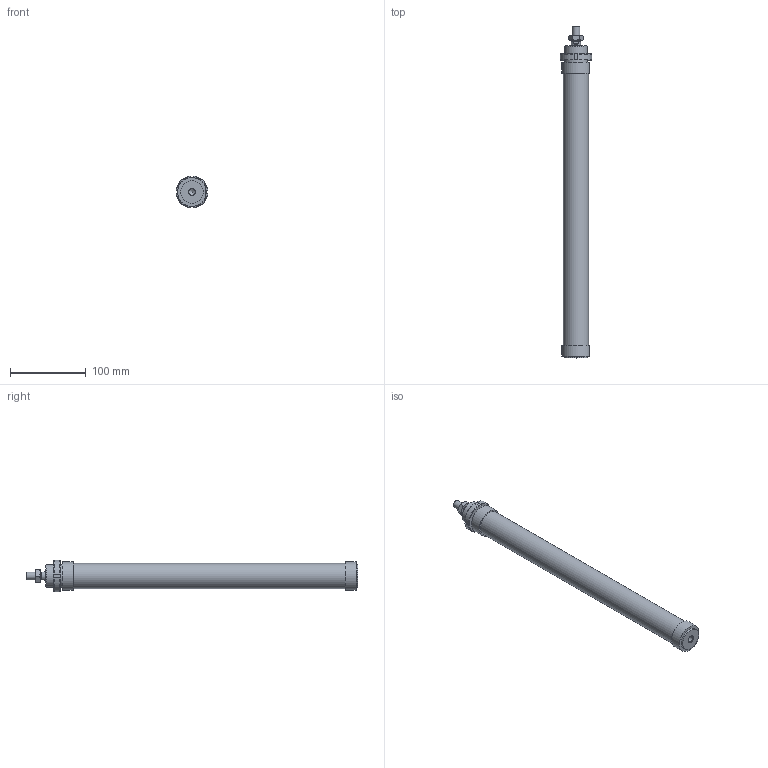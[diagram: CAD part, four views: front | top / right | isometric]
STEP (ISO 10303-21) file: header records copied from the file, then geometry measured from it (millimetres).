
FILE_DESCRIPTION((''),'2;1');
FILE_NAME('I:\Area Tecnica\Disegni\VARIE-3D\Componenti\1280\1281_##_####_#\1281_32_0320.iam.stp','2009-06-04T09:41:25',(''),(''),'Autodesk Inventor 2010','Autodesk Inventor 2010','');
FILE_SCHEMA(('AUTOMOTIVE_DESIGN { 1 0 10303 214 1 1 1 1 }'));
Length unit declared in the file: millimetre
Products named in the file (5): 1281_32_0320; C1281_32_320; S1280_32_320; 1200_32_05; 1200_32_06
Assembly tree (4 placements, depth 2):
  1281_32_0320
    C1281_32_320
    S1280_32_320
    1200_32_05
    1200_32_06
Bounding box: 41.7 x 439.5 x 41.7 mm (x, y, z)
Volume: 376021.6 mm3; surface area: 79174.4 mm2
Topology: 4 solids, 4 shells, 88 faces, 195 edges, 124 vertices
Faces by surface type: plane 39, cone 22, bspline 14, cylinder 13
Full cylindrical faces by diameter (mm): 8.8 x1, 10 x1, 12 x2, 30 x2, 33.6 x1
Entity records: 2663 total; most frequent: CARTESIAN_POINT 675, DIRECTION 362, ORIENTED_EDGE 338, EDGE_CURVE 169, AXIS2_PLACEMENT_3D 150, EDGE_LOOP 122, VERTEX_POINT 119, STYLED_ITEM 92
